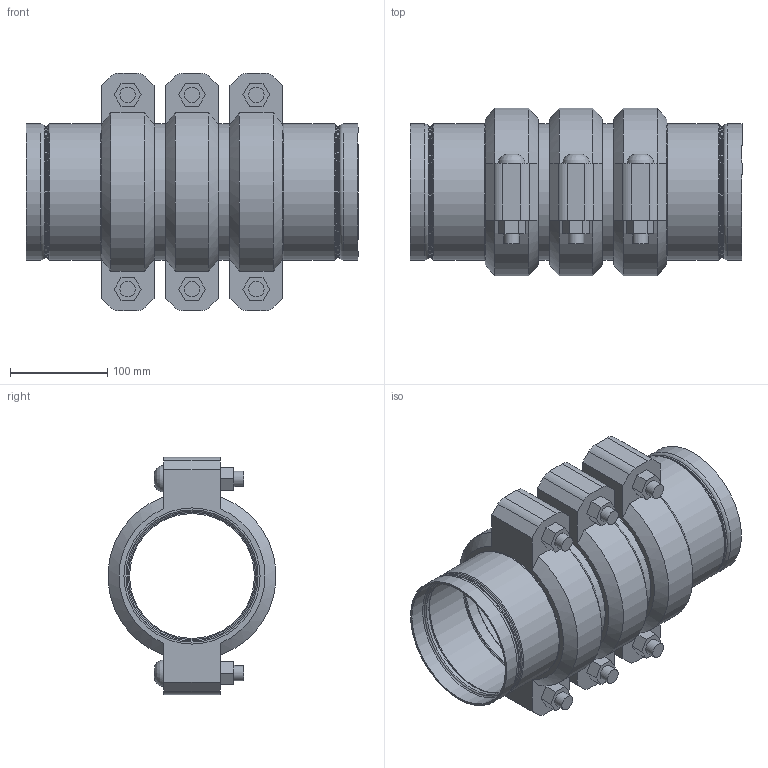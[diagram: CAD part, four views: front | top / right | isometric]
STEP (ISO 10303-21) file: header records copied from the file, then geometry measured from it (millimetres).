
FILE_DESCRIPTION(/* description */ ('VIC STRENGTHIN 100 EXPANSION JOINT 3 COUPLINGS EXPANDED STYLE E155 (ST1)','CAx-IF Rec.Pracs.---Representation and Presentation of Product Manufacturing Information (PMI)---4.0---2014-10-13'),/* implementation_level */ '2;1');
FILE_NAME(/* name */ 'C:\Users\Vjadhav\AppData\Roaming\Autodesk\ApplicationPlugins\Victaulic.Temp\A946\Victaulic_SS-StrengThin 100_Expansion Joint_Expanded_3 Couplings_Style E155 (ST1)_05.0 (139.7) (125).stp',/* time_stamp */ '2021-07-23T19:28:18+06:00',/* author */ ('kkamble'),/* organization */ ('Victaulic'),/* preprocessor_version */ 'ST-DEVELOPER v17.2',/* originating_system */ 'Autodesk Inventor 2019',/* authorisation */ '');
FILE_SCHEMA (('AP242_MANAGED_MODEL_BASED_3D_ENGINEERING_MIM_LF { 1 0 10303 442 1 1 4 }'));
Length unit declared in the file: inch
Products named in the file (4): E155-05.0 (139.7); E494G-05.0 (139.7); Nipple-05.0 (139.7); 075-05.0 (139.7)
Assembly tree (7 placements, depth 2):
  E155-05.0 (139.7)
    E494G-05.0 (139.7)  x2
    Nipple-05.0 (139.7)  x2
    075-05.0 (139.7)  x3
Bounding box: 340.87 x 172.14 x 243.59 mm (x, y, z)
Volume: 2346533.8 mm3; surface area: 600357.2 mm2
Topology: 7 solids, 13 shells, 263 faces, 681 edges, 484 vertices
Faces by surface type: plane 132, cylinder 77, torus 32, cone 16, bspline 6
Full cylindrical faces by diameter (mm): 15.875 x12, 17.424 x6, 128.194 x2, 130.505 x2, 131.47 x2, 133.35 x3, 134.518 x2, 135.484 x6, 135.687 x6, 139.7 x18
Entity records: 3718 total; most frequent: DIRECTION 657, CARTESIAN_POINT 653, ORIENTED_EDGE 548, AXIS2_PLACEMENT_3D 279, EDGE_CURVE 274, VERTEX_POINT 197, CIRCLE 167, EDGE_LOOP 129
